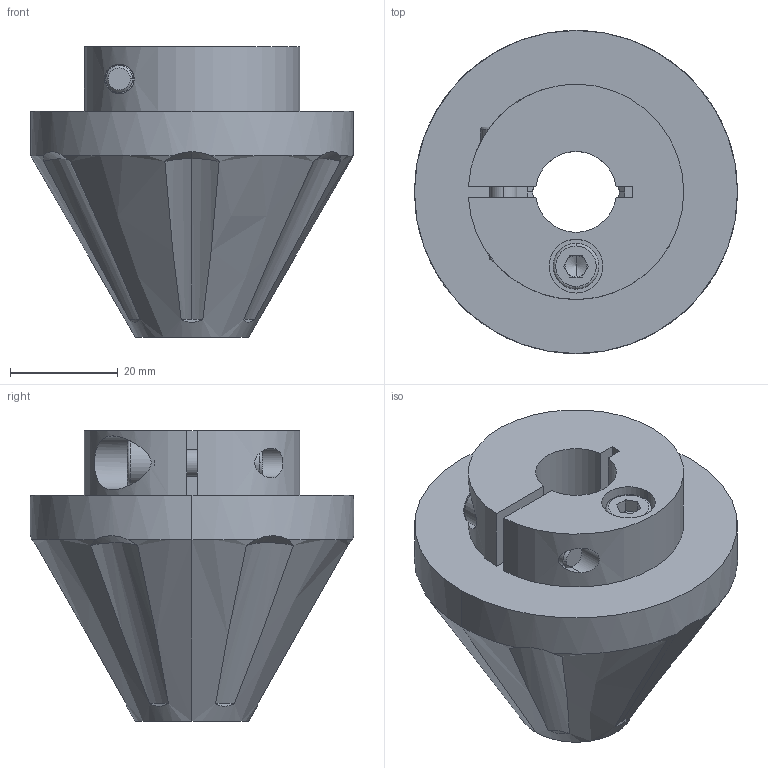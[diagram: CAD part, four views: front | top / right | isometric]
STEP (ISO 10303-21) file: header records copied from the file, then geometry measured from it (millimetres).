
FILE_DESCRIPTION (( 'STEP AP214' ), '1' );
FILE_NAME ('CL-16-F70.STEP', '2023-03-07T08:09:55', ( '' ), ( '' ), 'SwSTEP 2.0', 'SolidWorks 2022', '' );
FILE_SCHEMA (( 'AUTOMOTIVE_DESIGN' ));
Length unit declared in the file: millimetre
Products named in the file (1): CL-16-F70
Bounding box: 60 x 60 x 54 mm (x, y, z)
Volume: 72413.2 mm3; surface area: 17854.6 mm2
Topology: 4 solids, 4 shells, 113 faces, 268 edges, 164 vertices
Faces by surface type: plane 41, cylinder 34, cone 30, bspline 8
Entity records: 5040 total; most frequent: CARTESIAN_POINT 1193, DIRECTION 527, ORIENTED_EDGE 524, EDGE_CURVE 262, AXIS2_PLACEMENT_3D 209, VERTEX_POINT 164, EDGE_LOOP 128, UNCERTAINTY_MEASURE_WITH_UNIT 119
